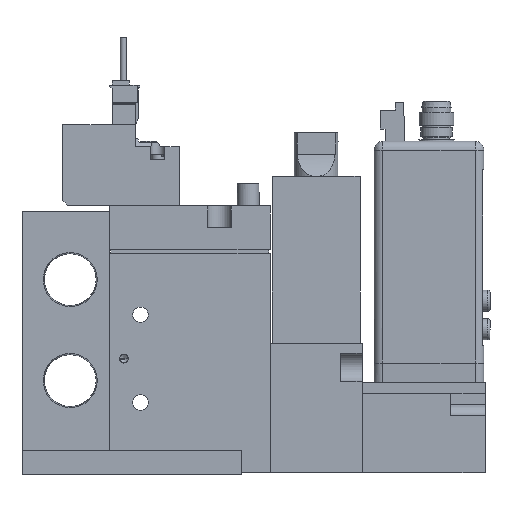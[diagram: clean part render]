
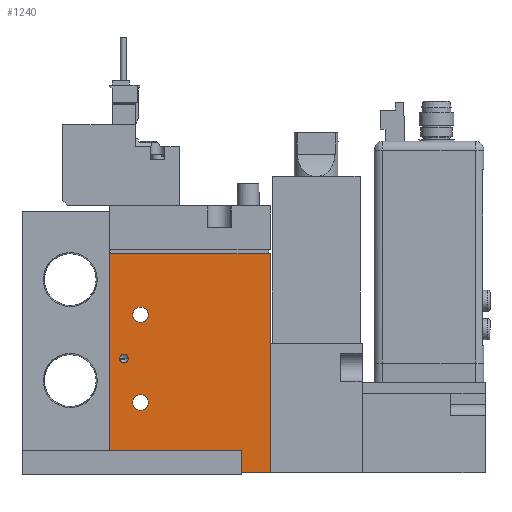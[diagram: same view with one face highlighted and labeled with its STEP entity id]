
A CAD part, left-side view. The second image highlights one B-rep face of the part: STEP entity #1240.
In plain terms, the highlighted planar face has unit normal (-1, 0, 0) as drawn and (1, 0, 0) by its records, which use the part's own axes.
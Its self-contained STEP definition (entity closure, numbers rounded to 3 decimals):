
#1240=ADVANCED_FACE('',(#2353,#2354,#2355,#2356),#2357,.F.);
#2353=FACE_BOUND('',#4200,.T.);
#2354=FACE_BOUND('',#4201,.T.);
#2355=FACE_BOUND('',#4202,.T.);
#2356=FACE_OUTER_BOUND('',#4203,.T.);
#2357=PLANE('',#4204);
#4200=EDGE_LOOP('',(#7663));
#4201=EDGE_LOOP('',(#7664));
#4202=EDGE_LOOP('',(#7665));
#4203=EDGE_LOOP('',(#7666,#7667,#7668,#7669));
#4204=AXIS2_PLACEMENT_3D('',#7670,#7671,#7672);
#7663=ORIENTED_EDGE('',*,*,#12317,.T.);
#7664=ORIENTED_EDGE('',*,*,#12315,.T.);
#7665=ORIENTED_EDGE('',*,*,#12322,.F.);
#7666=ORIENTED_EDGE('',*,*,#12323,.T.);
#7667=ORIENTED_EDGE('',*,*,#12324,.F.);
#7668=ORIENTED_EDGE('',*,*,#12325,.F.);
#7669=ORIENTED_EDGE('',*,*,#12319,.T.);
#7670=CARTESIAN_POINT('',(8.5,-19.444,50.0));
#7671=DIRECTION('',(-1.0,0.0,0.0));
#7672=DIRECTION('',(0.0,0.0,1.0));
#12315=EDGE_CURVE('',#14836,#14836,#14837,.T.);
#12317=EDGE_CURVE('',#14840,#14840,#14841,.T.);
#12319=EDGE_CURVE('',#14845,#14843,#14846,.T.);
#12322=EDGE_CURVE('',#14850,#14850,#14851,.T.);
#12323=EDGE_CURVE('',#14843,#14852,#14853,.T.);
#12324=EDGE_CURVE('',#14854,#14852,#14855,.T.);
#12325=EDGE_CURVE('',#14845,#14854,#14856,.T.);
#14836=VERTEX_POINT('',#18624);
#14837=CIRCLE('',#18625,1.75);
#14840=VERTEX_POINT('',#18628);
#14841=CIRCLE('',#18629,1.75);
#14843=VERTEX_POINT('',#18631);
#14845=VERTEX_POINT('',#18634);
#14846=LINE('',#18635,#18636);
#14850=VERTEX_POINT('',#18642);
#14851=CIRCLE('',#18643,1.0);
#14852=VERTEX_POINT('',#18644);
#14853=LINE('',#18645,#18646);
#14854=VERTEX_POINT('',#18647);
#14855=LINE('',#18648,#18649);
#14856=LINE('',#18650,#18651);
#18624=CARTESIAN_POINT('',(8.5,-10.694,36.0));
#18625=AXIS2_PLACEMENT_3D('',#22677,#22678,#22679);
#18628=CARTESIAN_POINT('',(8.5,-10.694,16.0));
#18629=AXIS2_PLACEMENT_3D('',#22683,#22684,#22685);
#18631=CARTESIAN_POINT('',(8.5,-19.444,0.0));
#18634=CARTESIAN_POINT('',(8.5,-19.444,50.0));
#18635=CARTESIAN_POINT('',(8.5,-19.444,50.0));
#18636=VECTOR('',#22687,1.0);
#18642=CARTESIAN_POINT('',(8.5,-17.244,26.0));
#18643=AXIS2_PLACEMENT_3D('',#22690,#22691,#22692);
#18644=CARTESIAN_POINT('',(8.5,17.056,0.0));
#18645=CARTESIAN_POINT('',(8.5,-19.444,0.0));
#18646=VECTOR('',#22693,1.0);
#18647=CARTESIAN_POINT('',(8.5,17.056,50.0));
#18648=CARTESIAN_POINT('',(8.5,17.056,50.0));
#18649=VECTOR('',#22694,1.0);
#18650=CARTESIAN_POINT('',(8.5,-19.444,50.0));
#18651=VECTOR('',#22695,1.0);
#22677=CARTESIAN_POINT('',(8.5,-12.444,36.0));
#22678=DIRECTION('',(-1.0,0.0,0.0));
#22679=DIRECTION('',(0.0,1.0,0.0));
#22683=CARTESIAN_POINT('',(8.5,-12.444,16.0));
#22684=DIRECTION('',(-1.0,0.0,0.0));
#22685=DIRECTION('',(0.0,1.0,0.0));
#22687=DIRECTION('',(0.0,0.0,-1.0));
#22690=CARTESIAN_POINT('',(8.5,-16.244,26.0));
#22691=DIRECTION('',(1.0,0.,0.0));
#22692=DIRECTION('',(0.,-1.0,0.0));
#22693=DIRECTION('',(0.0,1.0,0.0));
#22694=DIRECTION('',(0.0,0.0,-1.0));
#22695=DIRECTION('',(0.0,1.0,0.0));
